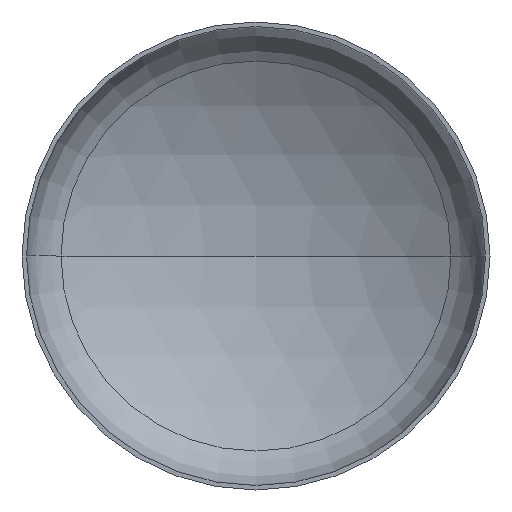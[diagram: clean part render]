
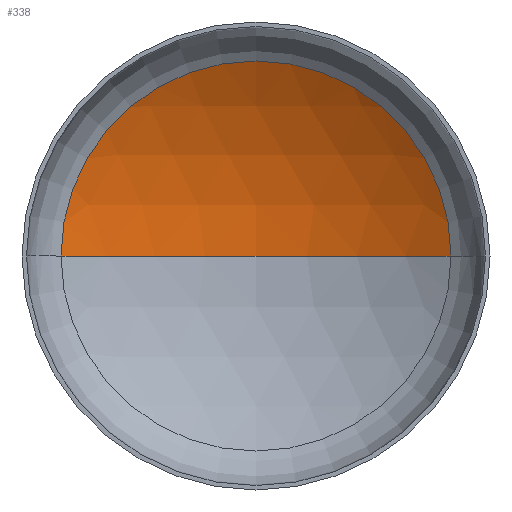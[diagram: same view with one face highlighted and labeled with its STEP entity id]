
A CAD part, front view. The second image highlights one B-rep face of the part: STEP entity #338.
In plain terms, the highlighted spherical face has radius 5200 mm.
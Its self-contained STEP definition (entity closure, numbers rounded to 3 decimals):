
#9 = AXIS2_PLACEMENT_3D ( 'NONE', #172, #118, #209 ) ;
#32 = CARTESIAN_POINT ( 'NONE',  ( 2708.952, 973.586, 0. ) ) ;
#34 = FACE_OUTER_BOUND ( 'NONE', #197, .T. ) ;
#42 = AXIS2_PLACEMENT_3D ( 'NONE', #167, #304, #303 ) ;
#46 = AXIS2_PLACEMENT_3D ( 'NONE', #301, #300, #294 ) ;
#47 = AXIS2_PLACEMENT_3D ( 'NONE', #307, #306, #313 ) ;
#61 = VERTEX_POINT ( 'NONE', #253 ) ;
#86 = EDGE_CURVE ( 'NONE', #212, #61, #296, .T. ) ;
#87 = EDGE_CURVE ( 'NONE', #134, #212, #225, .T. ) ;
#89 = EDGE_CURVE ( 'NONE', #134, #61, #122, .T. ) ;
#102 = ORIENTED_EDGE ( 'NONE', *, *, #86, .T. ) ;
#116 = ORIENTED_EDGE ( 'NONE', *, *, #87, .T. ) ;
#118 = DIRECTION ( 'NONE',  ( 0., 0., -1. ) ) ;
#122 = CIRCLE ( 'NONE', #42, 5200. ) ;
#134 = VERTEX_POINT ( 'NONE', #242 ) ;
#166 = SPHERICAL_SURFACE ( 'NONE', #9, 5200. ) ;
#167 = CARTESIAN_POINT ( 'NONE',  ( 0., -3465.06, 0. ) ) ;
#172 = CARTESIAN_POINT ( 'NONE',  ( 0., -3465.06, 0. ) ) ;
#196 = ORIENTED_EDGE ( 'NONE', *, *, #89, .F. ) ;
#197 = EDGE_LOOP ( 'NONE', ( #196, #116, #102 ) ) ;
#209 = DIRECTION ( 'NONE',  ( -1., 0., 0. ) ) ;
#212 = VERTEX_POINT ( 'NONE', #32 ) ;
#225 = CIRCLE ( 'NONE', #46, 5200. ) ;
#242 = CARTESIAN_POINT ( 'NONE',  ( 0., 1734.94, 0. ) ) ;
#253 = CARTESIAN_POINT ( 'NONE',  ( -2708.952, 973.586, 0. ) ) ;
#294 = DIRECTION ( 'NONE',  ( -1., 0., 0. ) ) ;
#296 = CIRCLE ( 'NONE', #47, 2708.952 ) ;
#300 = DIRECTION ( 'NONE',  ( 0., 0., -1. ) ) ;
#301 = CARTESIAN_POINT ( 'NONE',  ( 0., -3465.06, 0. ) ) ;
#303 = DIRECTION ( 'NONE',  ( 1., 0., 0. ) ) ;
#304 = DIRECTION ( 'NONE',  ( 0., 0., 1. ) ) ;
#306 = DIRECTION ( 'NONE',  ( 0., -1., 0. ) ) ;
#307 = CARTESIAN_POINT ( 'NONE',  ( 0., 973.586, 0. ) ) ;
#313 = DIRECTION ( 'NONE',  ( 1., 0., 0. ) ) ;
#338 = ADVANCED_FACE ( 'NONE', ( #34 ), #166, .F. ) ;
